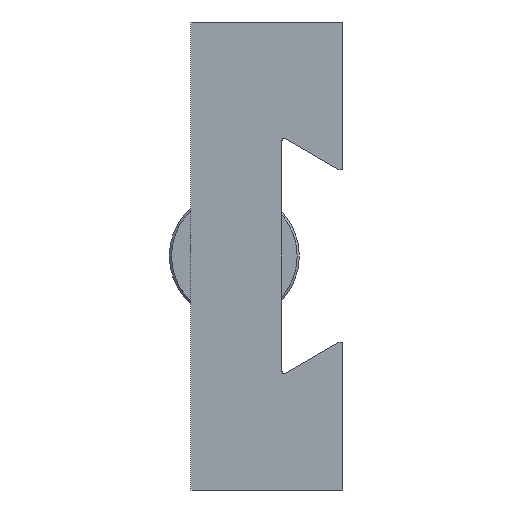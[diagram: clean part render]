
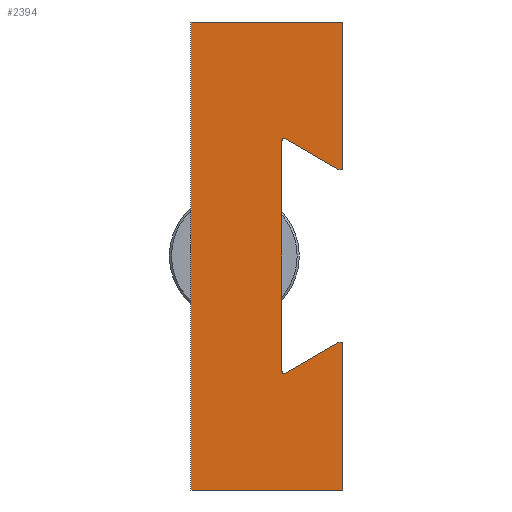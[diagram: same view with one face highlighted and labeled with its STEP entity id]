
A CAD part, front view. The second image highlights one B-rep face of the part: STEP entity #2394.
In plain terms, the highlighted planar face has unit normal (0, -1, 0).
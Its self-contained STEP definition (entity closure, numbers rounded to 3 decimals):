
#27 = EDGE_CURVE ( 'NONE', #3309, #5826, #3277, .T. ) ;
#68 = EDGE_CURVE ( 'NONE', #1950, #1963, #3147, .T. ) ;
#70 = EDGE_CURVE ( 'NONE', #3275, #5795, #3142, .T. ) ;
#153 = DIRECTION ( 'NONE',  ( 0., 0., -1. ) ) ;
#154 = DIRECTION ( 'NONE',  ( 0., 1., 0. ) ) ;
#155 = CARTESIAN_POINT ( 'NONE',  ( 0.5, 0., 26.634 ) ) ;
#607 = ORIENTED_EDGE ( 'NONE', *, *, #6952, .F. ) ;
#608 = ORIENTED_EDGE ( 'NONE', *, *, #6918, .T. ) ;
#609 = ORIENTED_EDGE ( 'NONE', *, *, #70, .F. ) ;
#612 = ORIENTED_EDGE ( 'NONE', *, *, #6919, .T. ) ;
#614 = ORIENTED_EDGE ( 'NONE', *, *, #6923, .F. ) ;
#615 = ORIENTED_EDGE ( 'NONE', *, *, #6921, .T. ) ;
#616 = ORIENTED_EDGE ( 'NONE', *, *, #4066, .T. ) ;
#618 = ORIENTED_EDGE ( 'NONE', *, *, #2518, .F. ) ;
#619 = ORIENTED_EDGE ( 'NONE', *, *, #68, .T. ) ;
#620 = ORIENTED_EDGE ( 'NONE', *, *, #2520, .F. ) ;
#623 = ORIENTED_EDGE ( 'NONE', *, *, #6917, .F. ) ;
#624 = ORIENTED_EDGE ( 'NONE', *, *, #2602, .F. ) ;
#625 = ORIENTED_EDGE ( 'NONE', *, *, #27, .F. ) ;
#905 = EDGE_LOOP ( 'NONE', ( #607, #608, #609, #612, #614, #615, #616, #618, #619, #620, #623, #624, #625 ) ) ;
#1148 = CARTESIAN_POINT ( 'NONE',  ( -21., 0., -54. ) ) ;
#1179 = DIRECTION ( 'NONE',  ( -1., 0., 0. ) ) ;
#1493 = CARTESIAN_POINT ( 'NONE',  ( 14., 0., -54. ) ) ;
#1545 = DIRECTION ( 'NONE',  ( 0., 0., -1. ) ) ;
#1941 = VERTEX_POINT ( 'NONE', #6029 ) ;
#1950 = VERTEX_POINT ( 'NONE', #6052 ) ;
#1955 = VERTEX_POINT ( 'NONE', #6044 ) ;
#1963 = VERTEX_POINT ( 'NONE', #5858 ) ;
#2032 = AXIS2_PLACEMENT_3D ( 'NONE', #155, #154, #153 ) ;
#2037 = AXIS2_PLACEMENT_3D ( 'NONE', #5379, #5378, #5377 ) ;
#2040 = AXIS2_PLACEMENT_3D ( 'NONE', #5384, #5383, #5382 ) ;
#2162 = CARTESIAN_POINT ( 'NONE',  ( 0.5, 0., 27.134 ) ) ;
#2394 = ADVANCED_FACE ( 'NONE', ( #3009 ), #5087, .T. ) ;
#2518 = EDGE_CURVE ( 'NONE', #1950, #1955, #6956, .T. ) ;
#2520 = EDGE_CURVE ( 'NONE', #5806, #1963, #2878, .T. ) ;
#2558 = AXIS2_PLACEMENT_3D ( 'NONE', #5086, #5081, #5080 ) ;
#2602 = EDGE_CURVE ( 'NONE', #5826, #3270, #2822, .T. ) ;
#2822 = LINE ( 'NONE', #7037, #2871 ) ;
#2829 = VECTOR ( 'NONE', #7070, 1000. ) ;
#2865 = VECTOR ( 'NONE', #7071, 1000. ) ;
#2871 = VECTOR ( 'NONE', #7030, 1000. ) ;
#2878 = LINE ( 'NONE', #7057, #2829 ) ;
#2904 = VECTOR ( 'NONE', #1545, 1000. ) ;
#3009 = FACE_OUTER_BOUND ( 'NONE', #905, .T. ) ;
#3138 = VECTOR ( 'NONE', #5856, 1000. ) ;
#3142 = LINE ( 'NONE', #6010, #3138 ) ;
#3145 = VECTOR ( 'NONE', #5863, 1000. ) ;
#3147 = LINE ( 'NONE', #6074, #3145 ) ;
#3258 = VECTOR ( 'NONE', #1179, 1000. ) ;
#3270 = VERTEX_POINT ( 'NONE', #4123 ) ;
#3275 = VERTEX_POINT ( 'NONE', #4118 ) ;
#3277 = LINE ( 'NONE', #1148, #3258 ) ;
#3290 = VERTEX_POINT ( 'NONE', #2162 ) ;
#3308 = VERTEX_POINT ( 'NONE', #4021 ) ;
#3309 = VERTEX_POINT ( 'NONE', #4020 ) ;
#4020 = CARTESIAN_POINT ( 'NONE',  ( 14., 0., -54. ) ) ;
#4021 = CARTESIAN_POINT ( 'NONE',  ( 0., 0., -26.634 ) ) ;
#4066 = EDGE_CURVE ( 'NONE', #3290, #1955, #7169, .T. ) ;
#4118 = CARTESIAN_POINT ( 'NONE',  ( 0.75, 0., -27.067 ) ) ;
#4123 = CARTESIAN_POINT ( 'NONE',  ( -21., 0., 54. ) ) ;
#5080 = DIRECTION ( 'NONE',  ( 0., 0., -1. ) ) ;
#5081 = DIRECTION ( 'NONE',  ( 0., -1., 0. ) ) ;
#5086 = CARTESIAN_POINT ( 'NONE',  ( 0., 0., 0. ) ) ;
#5087 = PLANE ( 'NONE',  #2558 ) ;
#5377 = DIRECTION ( 'NONE',  ( 0., 0., -1. ) ) ;
#5378 = DIRECTION ( 'NONE',  ( 0., 1., 0. ) ) ;
#5379 = CARTESIAN_POINT ( 'NONE',  ( 0.5, 0., 26.634 ) ) ;
#5380 = DIRECTION ( 'NONE',  ( 0., 0., -1. ) ) ;
#5381 = CARTESIAN_POINT ( 'NONE',  ( 0., 0., -27.5 ) ) ;
#5382 = DIRECTION ( 'NONE',  ( 0., 0., -1. ) ) ;
#5383 = DIRECTION ( 'NONE',  ( 0., 1., 0. ) ) ;
#5384 = CARTESIAN_POINT ( 'NONE',  ( 0.5, 0., -26.634 ) ) ;
#5385 = DIRECTION ( 'NONE',  ( -1., 0., 0. ) ) ;
#5387 = CARTESIAN_POINT ( 'NONE',  ( 0., 0., -19.917 ) ) ;
#5388 = DIRECTION ( 'NONE',  ( 1., 0., 0. ) ) ;
#5389 = CARTESIAN_POINT ( 'NONE',  ( 14., 0., 54. ) ) ;
#5435 = CARTESIAN_POINT ( 'NONE',  ( -21., 0., -54. ) ) ;
#5456 = CARTESIAN_POINT ( 'NONE',  ( 14., 0., 54. ) ) ;
#5461 = CARTESIAN_POINT ( 'NONE',  ( 0., 0., 26.634 ) ) ;
#5467 = CARTESIAN_POINT ( 'NONE',  ( 13.134, 0., -19.917 ) ) ;
#5795 = VERTEX_POINT ( 'NONE', #5467 ) ;
#5801 = VERTEX_POINT ( 'NONE', #5461 ) ;
#5806 = VERTEX_POINT ( 'NONE', #5456 ) ;
#5826 = VERTEX_POINT ( 'NONE', #5435 ) ;
#5856 = DIRECTION ( 'NONE',  ( 0.866, 0., 0.5 ) ) ;
#5858 = CARTESIAN_POINT ( 'NONE',  ( 14., 0., 19.917 ) ) ;
#5863 = DIRECTION ( 'NONE',  ( 1., 0., 0. ) ) ;
#6010 = CARTESIAN_POINT ( 'NONE',  ( 14., 0., -19.417 ) ) ;
#6029 = CARTESIAN_POINT ( 'NONE',  ( 14., 0., -19.917 ) ) ;
#6044 = CARTESIAN_POINT ( 'NONE',  ( 0.75, 0., 27.067 ) ) ;
#6052 = CARTESIAN_POINT ( 'NONE',  ( 13.134, 0., 19.917 ) ) ;
#6074 = CARTESIAN_POINT ( 'NONE',  ( 0., 0., 19.917 ) ) ;
#6917 = EDGE_CURVE ( 'NONE', #3270, #5806, #7224, .T. ) ;
#6918 = EDGE_CURVE ( 'NONE', #1941, #5795, #7226, .T. ) ;
#6919 = EDGE_CURVE ( 'NONE', #3275, #3308, #7228, .T. ) ;
#6921 = EDGE_CURVE ( 'NONE', #5801, #3290, #7231, .T. ) ;
#6923 = EDGE_CURVE ( 'NONE', #5801, #3308, #7234, .T. ) ;
#6952 = EDGE_CURVE ( 'NONE', #1941, #3309, #7254, .T. ) ;
#6956 = LINE ( 'NONE', #7072, #2865 ) ;
#7030 = DIRECTION ( 'NONE',  ( 0., 0., 1. ) ) ;
#7037 = CARTESIAN_POINT ( 'NONE',  ( -21., 0., 54. ) ) ;
#7057 = CARTESIAN_POINT ( 'NONE',  ( 14., 0., 19.417 ) ) ;
#7070 = DIRECTION ( 'NONE',  ( 0., 0., -1. ) ) ;
#7071 = DIRECTION ( 'NONE',  ( -0.866, 0., 0.5 ) ) ;
#7072 = CARTESIAN_POINT ( 'NONE',  ( 0., 0., 27.5 ) ) ;
#7169 = CIRCLE ( 'NONE', #2032, 0.5 ) ;
#7224 = LINE ( 'NONE', #5389, #7227 ) ;
#7226 = LINE ( 'NONE', #5387, #7229 ) ;
#7227 = VECTOR ( 'NONE', #5388, 1000. ) ;
#7228 = CIRCLE ( 'NONE', #2040, 0.5 ) ;
#7229 = VECTOR ( 'NONE', #5385, 1000. ) ;
#7231 = CIRCLE ( 'NONE', #2037, 0.5 ) ;
#7234 = LINE ( 'NONE', #5381, #7236 ) ;
#7236 = VECTOR ( 'NONE', #5380, 1000. ) ;
#7254 = LINE ( 'NONE', #1493, #2904 ) ;
